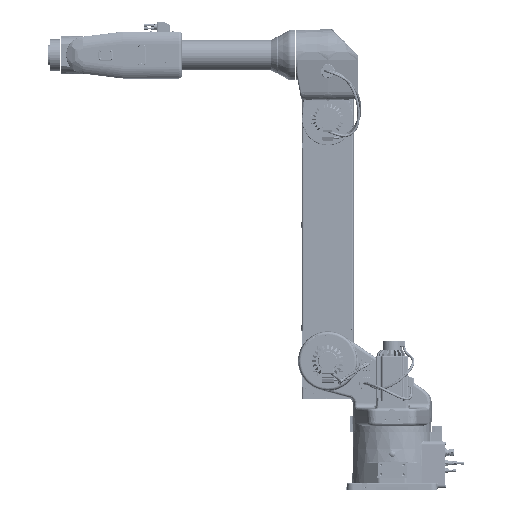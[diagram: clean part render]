
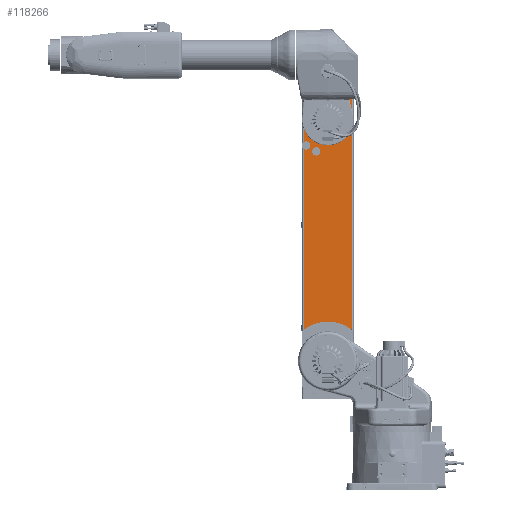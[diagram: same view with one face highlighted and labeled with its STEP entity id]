
A CAD part, top view. The second image highlights one B-rep face of the part: STEP entity #118266.
In plain terms, the highlighted planar face has unit normal (0, 0, 1).
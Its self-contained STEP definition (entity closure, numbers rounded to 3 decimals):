
#111655=DIRECTION('',(0.,-1.,0.));
#111656=VECTOR('',#111655,561.464);
#111657=CARTESIAN_POINT('',(-275.,1058.952,-93.5));
#111658=LINE('',#111657,#111656);
#111667=DIRECTION('',(0.,-1.,0.));
#111668=VECTOR('',#111667,153.021);
#111669=CARTESIAN_POINT('',(-275.,1233.2,-93.5));
#111670=LINE('',#111669,#111668);
#111709=CARTESIAN_POINT('',(-267.493,1069.565,-93.5));
#111710=DIRECTION('',(0.,0.,1.));
#111711=DIRECTION('',(-0.577,-0.816,0.));
#111712=AXIS2_PLACEMENT_3D('',#111709,#111710,#111711);
#111714=CARTESIAN_POINT('',(-267.493,1069.565,-93.5));
#111715=DIRECTION('',(0.,0.,1.));
#111716=DIRECTION('',(1.,0.,0.));
#111717=AXIS2_PLACEMENT_3D('',#111714,#111715,#111716);
#111719=DIRECTION('',(1.,0.,0.));
#111720=VECTOR('',#111719,70.5);
#111721=CARTESIAN_POINT('',(-275.,1233.2,-93.5));
#111722=LINE('',#111721,#111720);
#111723=DIRECTION('',(0.,-1.,0.));
#111724=VECTOR('',#111723,3.2);
#111725=CARTESIAN_POINT('',(-204.5,1233.2,-93.5));
#111726=LINE('',#111725,#111724);
#111727=DIRECTION('',(1.,0.,0.));
#111728=VECTOR('',#111727,9.);
#111729=CARTESIAN_POINT('',(-204.5,1230.,-93.5));
#111730=LINE('',#111729,#111728);
#111731=DIRECTION('',(1.,0.,0.));
#111732=VECTOR('',#111731,70.5);
#111733=CARTESIAN_POINT('',(-195.5,1233.2,-93.5));
#111734=LINE('',#111733,#111732);
#111735=CARTESIAN_POINT('',(-200.,400.,-93.5));
#111736=DIRECTION('',(0.,0.,1.));
#111737=DIRECTION('',(0.61,0.793,0.));
#111738=AXIS2_PLACEMENT_3D('',#111735,#111736,#111737);
#111750=CARTESIAN_POINT('',(-235.912,1051.332,-93.5));
#111751=DIRECTION('',(0.,0.,1.));
#111752=DIRECTION('',(-1.,0.,0.));
#111753=AXIS2_PLACEMENT_3D('',#111750,#111751,#111752);
#111755=CARTESIAN_POINT('',(-235.912,1051.332,-93.5));
#111756=DIRECTION('',(0.,0.,1.));
#111757=DIRECTION('',(1.,0.,0.));
#111758=AXIS2_PLACEMENT_3D('',#111755,#111756,#111757);
#111960=DIRECTION('',(0.,-1.,0.));
#111961=VECTOR('',#111960,3.2);
#111962=CARTESIAN_POINT('',(-195.5,1233.2,-93.5));
#111963=LINE('',#111962,#111961);
#112232=DIRECTION('',(0.,1.,0.));
#112233=VECTOR('',#112232,735.712);
#112234=CARTESIAN_POINT('',(-125.,497.488,-93.5));
#112235=LINE('',#112234,#112233);
#114671=CARTESIAN_POINT('',(-125.,497.488,-93.5));
#114672=CARTESIAN_POINT('',(-275.,497.488,-93.5));
#114673=VERTEX_POINT('',#114671);
#114674=VERTEX_POINT('',#114672);
#114681=CARTESIAN_POINT('',(-204.5,1233.2,-93.5));
#114683=VERTEX_POINT('',#114681);
#114684=CARTESIAN_POINT('',(-275.,1233.2,-93.5));
#114685=VERTEX_POINT('',#114684);
#114706=CARTESIAN_POINT('',(-125.,1233.2,-93.5));
#114707=VERTEX_POINT('',#114706);
#114708=CARTESIAN_POINT('',(-195.5,1233.2,-93.5));
#114709=VERTEX_POINT('',#114708);
#115530=CARTESIAN_POINT('',(-204.5,1230.,-93.5));
#115532=VERTEX_POINT('',#115530);
#115534=CARTESIAN_POINT('',(-195.5,1230.,-93.5));
#115536=VERTEX_POINT('',#115534);
#115910=CARTESIAN_POINT('',(-275.,1080.179,-93.5));
#115912=VERTEX_POINT('',#115910);
#115915=CARTESIAN_POINT('',(-275.,1058.952,-93.5));
#115917=VERTEX_POINT('',#115915);
#115918=CARTESIAN_POINT('',(-254.493,1069.565,-93.5));
#115919=VERTEX_POINT('',#115918);
#115932=CARTESIAN_POINT('',(-248.912,1051.332,-93.5));
#115933=CARTESIAN_POINT('',(-222.912,1051.332,-93.5));
#115934=VERTEX_POINT('',#115932);
#115935=VERTEX_POINT('',#115933);
#118234=CARTESIAN_POINT('',(-200.,863.744,-93.5));
#118235=DIRECTION('',(0.,0.,1.));
#118236=DIRECTION('',(1.,0.,0.));
#118237=AXIS2_PLACEMENT_3D('',#118234,#118235,#118236);
#118238=PLANE('',#118237);
#118240=ORIENTED_EDGE('',*,*,#118239,.T.);
#118241=ORIENTED_EDGE('',*,*,#118215,.T.);
#118242=ORIENTED_EDGE('',*,*,#118173,.F.);
#118244=ORIENTED_EDGE('',*,*,#118243,.T.);
#118246=ORIENTED_EDGE('',*,*,#118245,.T.);
#118248=ORIENTED_EDGE('',*,*,#118247,.T.);
#118250=ORIENTED_EDGE('',*,*,#118249,.F.);
#118252=ORIENTED_EDGE('',*,*,#118251,.T.);
#118254=ORIENTED_EDGE('',*,*,#118253,.F.);
#118256=ORIENTED_EDGE('',*,*,#118255,.T.);
#118257=ORIENTED_EDGE('',*,*,#118155,.F.);
#118258=EDGE_LOOP('',(#118240,#118241,#118242,#118244,#118246,#118248,#118250,
#118252,#118254,#118256,#118257));
#118259=FACE_OUTER_BOUND('',#118258,.F.);
#118261=ORIENTED_EDGE('',*,*,#118260,.T.);
#118263=ORIENTED_EDGE('',*,*,#118262,.T.);
#118264=EDGE_LOOP('',(#118261,#118263));
#118265=FACE_BOUND('',#118264,.F.);
#111713=CIRCLE('',#111712,13.);
#111718=CIRCLE('',#111717,13.);
#111739=CIRCLE('',#111738,123.);
#111754=CIRCLE('',#111753,13.);
#111759=CIRCLE('',#111758,13.);
#118155=EDGE_CURVE('',#115917,#114674,#111658,.T.);
#118173=EDGE_CURVE('',#114685,#115912,#111670,.T.);
#118215=EDGE_CURVE('',#115919,#115912,#111718,.T.);
#118239=EDGE_CURVE('',#115917,#115919,#111713,.T.);
#118243=EDGE_CURVE('',#114685,#114683,#111722,.T.);
#118245=EDGE_CURVE('',#114683,#115532,#111726,.T.);
#118247=EDGE_CURVE('',#115532,#115536,#111730,.T.);
#118249=EDGE_CURVE('',#114709,#115536,#111963,.T.);
#118251=EDGE_CURVE('',#114709,#114707,#111734,.T.);
#118253=EDGE_CURVE('',#114673,#114707,#112235,.T.);
#118255=EDGE_CURVE('',#114673,#114674,#111739,.T.);
#118260=EDGE_CURVE('',#115934,#115935,#111754,.T.);
#118262=EDGE_CURVE('',#115935,#115934,#111759,.T.);
#118266=ADVANCED_FACE('',(#118259,#118265),#118238,.T.);
